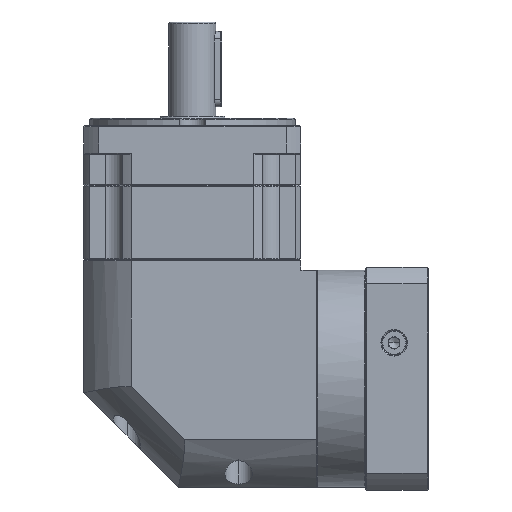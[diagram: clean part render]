
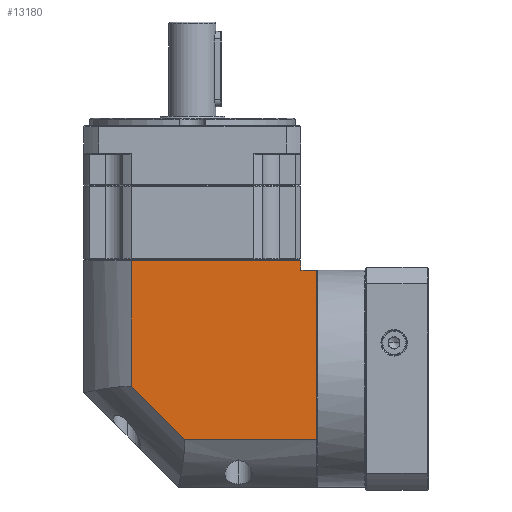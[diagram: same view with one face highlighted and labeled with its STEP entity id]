
A CAD part, left-side view. The second image highlights one B-rep face of the part: STEP entity #13180.
In plain terms, the highlighted planar face has unit normal (-1, 0, 0).
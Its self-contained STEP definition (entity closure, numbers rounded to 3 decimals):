
#3359 = DIRECTION ( 'NONE',  ( 0., 0., 1. ) ) ;
#4663 = VERTEX_POINT ( 'NONE', #28820 ) ;
#13041 = DIRECTION ( 'NONE',  ( 0., 1., 0. ) ) ;
#13180 = ADVANCED_FACE ( 'NONE', ( #127374 ), #97501, .F. ) ;
#13184 = VECTOR ( 'NONE', #13041, 1000. ) ;
#17754 = LINE ( 'NONE', #164616, #84996 ) ;
#18923 = DIRECTION ( 'NONE',  ( 0., 0., 1. ) ) ;
#24108 = CARTESIAN_POINT ( 'NONE',  ( 25.145, 71.313, 176.338 ) ) ;
#28820 = CARTESIAN_POINT ( 'NONE',  ( 25.145, -26.987, 237.9 ) ) ;
#29526 = CARTESIAN_POINT ( 'NONE',  ( 25.145, 96.413, 242.9 ) ) ;
#32816 = VERTEX_POINT ( 'NONE', #24108 ) ;
#36497 = ORIENTED_EDGE ( 'NONE', *, *, #129694, .T. ) ;
#36869 = LINE ( 'NONE', #29526, #68460 ) ;
#39834 = CARTESIAN_POINT ( 'NONE',  ( 25.145, 71.313, 242.9 ) ) ;
#47683 = ORIENTED_EDGE ( 'NONE', *, *, #72050, .F. ) ;
#53713 = LINE ( 'NONE', #139481, #125163 ) ;
#56107 = VECTOR ( 'NONE', #66672, 1000. ) ;
#59124 = DIRECTION ( 'NONE',  ( 0., 0., -1. ) ) ;
#59293 = VERTEX_POINT ( 'NONE', #39834 ) ;
#65090 = VECTOR ( 'NONE', #18923, 1000. ) ;
#65882 = EDGE_CURVE ( 'NONE', #105672, #101590, #17754, .T. ) ;
#66672 = DIRECTION ( 'NONE',  ( 0., 0.707, 0.707 ) ) ;
#68460 = VECTOR ( 'NONE', #137012, 1000. ) ;
#69913 = CARTESIAN_POINT ( 'NONE',  ( 25.145, -18.587, 122.9 ) ) ;
#71232 = DIRECTION ( 'NONE',  ( 1., 0., 0. ) ) ;
#72050 = EDGE_CURVE ( 'NONE', #32816, #59293, #172040, .T. ) ;
#75807 = LINE ( 'NONE', #69913, #142973 ) ;
#76965 = CARTESIAN_POINT ( 'NONE',  ( 25.145, -18.587, 237.9 ) ) ;
#77854 = CARTESIAN_POINT ( 'NONE',  ( 25.145, -26.987, 148. ) ) ;
#78457 = ORIENTED_EDGE ( 'NONE', *, *, #104396, .T. ) ;
#80363 = EDGE_CURVE ( 'NONE', #59293, #157460, #36869, .T. ) ;
#84996 = VECTOR ( 'NONE', #97766, 1000. ) ;
#88216 = ORIENTED_EDGE ( 'NONE', *, *, #65882, .F. ) ;
#97501 = PLANE ( 'NONE',  #162811 ) ;
#97766 = DIRECTION ( 'NONE',  ( 0., 1., 0. ) ) ;
#98368 = EDGE_CURVE ( 'NONE', #101590, #32816, #127536, .T. ) ;
#101530 = ORIENTED_EDGE ( 'NONE', *, *, #80363, .F. ) ;
#101590 = VERTEX_POINT ( 'NONE', #153923 ) ;
#104396 = EDGE_CURVE ( 'NONE', #170087, #157460, #75807, .T. ) ;
#105672 = VERTEX_POINT ( 'NONE', #77854 ) ;
#120234 = ORIENTED_EDGE ( 'NONE', *, *, #139748, .F. ) ;
#124672 = LINE ( 'NONE', #133506, #13184 ) ;
#125163 = VECTOR ( 'NONE', #59124, 1000. ) ;
#127374 = FACE_OUTER_BOUND ( 'NONE', #139139, .T. ) ;
#127536 = LINE ( 'NONE', #146990, #56107 ) ;
#129694 = EDGE_CURVE ( 'NONE', #4663, #170087, #124672, .T. ) ;
#132430 = CARTESIAN_POINT ( 'NONE',  ( 25.145, -18.587, 242.9 ) ) ;
#133506 = CARTESIAN_POINT ( 'NONE',  ( 25.145, -18.587, 237.9 ) ) ;
#137012 = DIRECTION ( 'NONE',  ( 0., -1., 0. ) ) ;
#139139 = EDGE_LOOP ( 'NONE', ( #47683, #150126, #88216, #120234, #36497, #78457, #101530 ) ) ;
#139481 = CARTESIAN_POINT ( 'NONE',  ( 25.145, -26.987, 249.4 ) ) ;
#139748 = EDGE_CURVE ( 'NONE', #4663, #105672, #53713, .T. ) ;
#142973 = VECTOR ( 'NONE', #3359, 1000. ) ;
#146990 = CARTESIAN_POINT ( 'NONE',  ( 25.145, 42.975, 148. ) ) ;
#150126 = ORIENTED_EDGE ( 'NONE', *, *, #98368, .F. ) ;
#151445 = CARTESIAN_POINT ( 'NONE',  ( 25.145, 96.413, 249.4 ) ) ;
#153923 = CARTESIAN_POINT ( 'NONE',  ( 25.145, 42.975, 148. ) ) ;
#157460 = VERTEX_POINT ( 'NONE', #132430 ) ;
#162811 = AXIS2_PLACEMENT_3D ( 'NONE', #151445, #71232, #164950 ) ;
#164616 = CARTESIAN_POINT ( 'NONE',  ( 25.145, 96.413, 148. ) ) ;
#164950 = DIRECTION ( 'NONE',  ( 0., 1., 0. ) ) ;
#166832 = CARTESIAN_POINT ( 'NONE',  ( 25.145, 71.313, 249.4 ) ) ;
#170087 = VERTEX_POINT ( 'NONE', #76965 ) ;
#172040 = LINE ( 'NONE', #166832, #65090 ) ;
